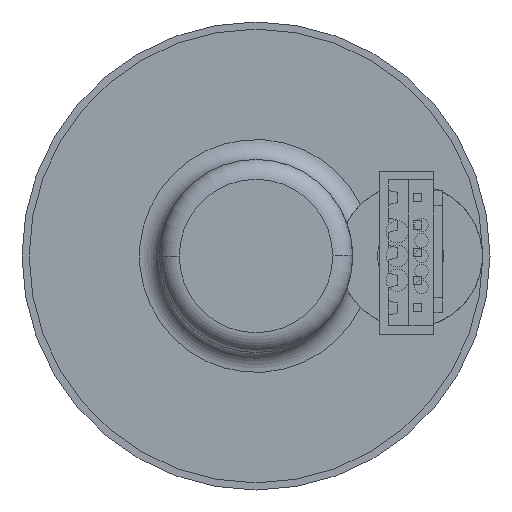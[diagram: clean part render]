
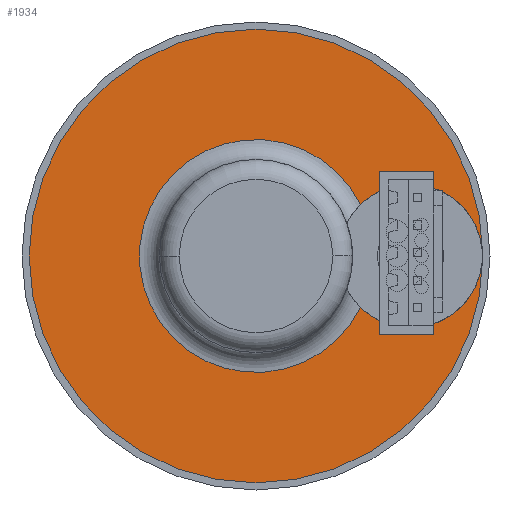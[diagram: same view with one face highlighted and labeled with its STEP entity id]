
A CAD part, front view. The second image highlights one B-rep face of the part: STEP entity #1934.
In plain terms, the highlighted planar face has unit normal (0, -1, 0).
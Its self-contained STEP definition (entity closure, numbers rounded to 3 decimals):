
#67=CARTESIAN_POINT('',(0.,1.4,0.));
#68=DIRECTION('',(0.,-1.,0.));
#69=DIRECTION('',(1.,0.,0.));
#70=AXIS2_PLACEMENT_3D('',#67,#68,#69);
#80=CARTESIAN_POINT('',(0.,1.4,0.));
#81=DIRECTION('',(0.,1.,0.));
#82=DIRECTION('',(1.,0.,0.));
#83=AXIS2_PLACEMENT_3D('',#80,#81,#82);
#175=CARTESIAN_POINT('',(14.,1.4,0.));
#176=DIRECTION('',(0.,1.,0.));
#177=DIRECTION('',(-0.698,0.,0.717));
#178=AXIS2_PLACEMENT_3D('',#175,#176,#177);
#193=CARTESIAN_POINT('',(9.466,1.4,-4.658));
#195=CARTESIAN_POINT('',(0.,1.4,0.));
#196=DIRECTION('',(0.,1.,0.));
#197=DIRECTION('',(0.897,0.,-0.441));
#198=AXIS2_PLACEMENT_3D('',#195,#196,#197);
#200=CARTESIAN_POINT('',(9.466,1.4,4.658));
#1430=CARTESIAN_POINT('',(20.55,1.4,0.));
#1432=VERTEX_POINT('',#1430);
#1446=CARTESIAN_POINT('',(-20.55,1.4,0.));
#1448=VERTEX_POINT('',#1446);
#1673=VERTEX_POINT('',#200);
#1674=VERTEX_POINT('',#193);
#1919=CARTESIAN_POINT('',(0.,1.4,0.));
#1920=DIRECTION('',(0.,-1.,0.));
#1921=DIRECTION('',(-1.,0.,0.));
#1922=AXIS2_PLACEMENT_3D('',#1919,#1920,#1921);
#1923=PLANE('',#1922);
#1924=ORIENTED_EDGE('',*,*,#1914,.T.);
#1925=ORIENTED_EDGE('',*,*,#1898,.F.);
#1926=EDGE_LOOP('',(#1924,#1925));
#1927=FACE_OUTER_BOUND('',#1926,.F.);
#1929=ORIENTED_EDGE('',*,*,#1928,.F.);
#1931=ORIENTED_EDGE('',*,*,#1930,.F.);
#1932=EDGE_LOOP('',(#1929,#1931));
#1933=FACE_BOUND('',#1932,.F.);
#1934=ADVANCED_FACE('',(#1927,#1933),#1923,.T.);
#71=CIRCLE('',#70,20.55);
#84=CIRCLE('',#83,20.55);
#179=CIRCLE('',#178,6.5);
#199=CIRCLE('',#198,10.55);
#1898=EDGE_CURVE('',#1432,#1448,#71,.T.);
#1914=EDGE_CURVE('',#1432,#1448,#84,.T.);
#1928=EDGE_CURVE('',#1673,#1674,#179,.T.);
#1930=EDGE_CURVE('',#1674,#1673,#199,.T.);
